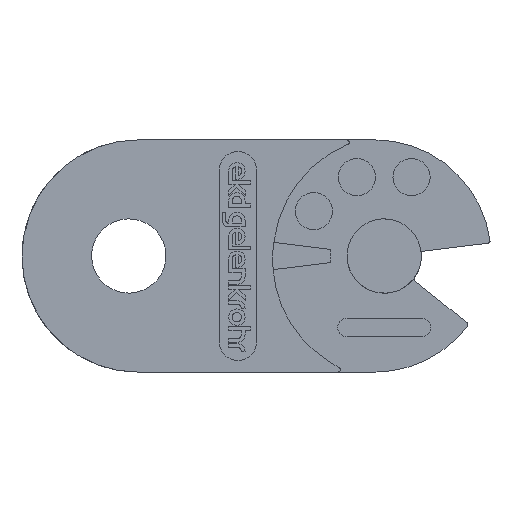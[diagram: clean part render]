
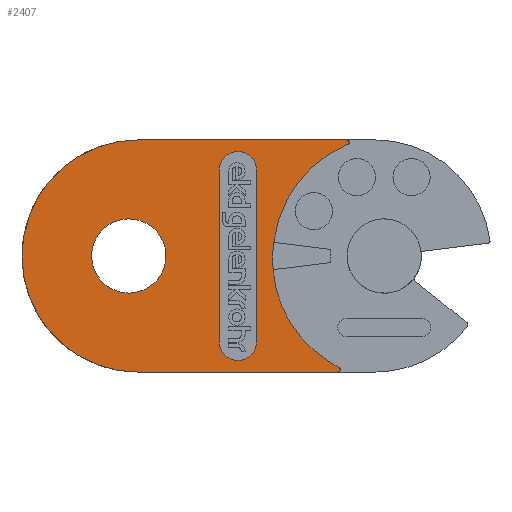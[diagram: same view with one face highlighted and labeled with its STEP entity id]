
A CAD part, left-side view. The second image highlights one B-rep face of the part: STEP entity #2407.
In plain terms, the highlighted planar face has unit normal (-1, 0, 0) as drawn and (0, 0, -1) by its records, which use the part's own axes.
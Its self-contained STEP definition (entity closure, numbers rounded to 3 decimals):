
#1499=CARTESIAN_POINT('',(186.111,170.46,-87.));
#1500=VERTEX_POINT('',#1499);
#1507=CARTESIAN_POINT('',(186.111,120.46,-87.));
#1508=VERTEX_POINT('',#1507);
#1509=CARTESIAN_POINT('',(186.111,145.46,-87.));
#1510=DIRECTION('',(0.0,0.0,-1.0));
#1511=DIRECTION('',(0.0,-1.0,0.0));
#1512=AXIS2_PLACEMENT_3D('',#1509,#1510,#1511);
#1513=CIRCLE('',#1512,25.0);
#1514=EDGE_CURVE('',#1508,#1500,#1513,.T.);
#2104=CARTESIAN_POINT('',(178.713,139.556,-87.));
#2105=VERTEX_POINT('',#2104);
#2112=CARTESIAN_POINT('',(189.508,151.365,-87.));
#2113=VERTEX_POINT('',#2112);
#2114=CARTESIAN_POINT('',(184.111,145.46,-87.));
#2115=DIRECTION('',(0.0,0.0,1.0));
#2116=DIRECTION('',(-1.0,0.0,0.0));
#2117=AXIS2_PLACEMENT_3D('',#2114,#2115,#2116);
#2118=CIRCLE('',#2117,8.0);
#2119=EDGE_CURVE('',#2113,#2105,#2118,.T.);
#2146=CARTESIAN_POINT('',(215.425,142.043,-87.));
#2147=VERTEX_POINT('',#2146);
#2154=CARTESIAN_POINT('',(215.226,148.883,-87.));
#2155=VERTEX_POINT('',#2154);
#2156=CARTESIAN_POINT('',(240.932,146.21,-87.));
#2157=DIRECTION('',(0.0,0.0,1.));
#2158=DIRECTION('',(-0.987,-0.161,0.0));
#2159=AXIS2_PLACEMENT_3D('',#2156,#2157,#2158);
#2160=CIRCLE('',#2159,25.845);
#2161=EDGE_CURVE('',#2155,#2147,#2160,.T.);
#2296=CARTESIAN_POINT('',(239.789,145.654,-87.));
#2297=DIRECTION('',(0.0,0.0,-1.0));
#2298=DIRECTION('',(-1.0,0.0,0.0));
#2299=AXIS2_PLACEMENT_3D('',#2296,#2297,#2298);
#2300=PLANE('',#2299);
#2301=ORIENTED_EDGE('',*,*,#2161,.T.);
#2302=CARTESIAN_POINT('',(231.291,121.423,-87.));
#2303=VERTEX_POINT('',#2302);
#2304=CARTESIAN_POINT('',(241.2,145.46,-87.));
#2305=DIRECTION('',(0.0,0.0,1.));
#2306=DIRECTION('',(-0.381,-0.925,0.0));
#2307=AXIS2_PLACEMENT_3D('',#2304,#2305,#2306);
#2308=CIRCLE('',#2307,26.);
#2309=EDGE_CURVE('',#2147,#2303,#2308,.T.);
#2310=ORIENTED_EDGE('',*,*,#2309,.T.);
#2311=CARTESIAN_POINT('',(231.1,120.46,-87.));
#2312=VERTEX_POINT('',#2311);
#2313=CARTESIAN_POINT('',(231.1,120.96,-87.));
#2314=DIRECTION('',(0.0,0.0,-1.));
#2315=DIRECTION('',(-0.381,-0.925,0.0));
#2316=AXIS2_PLACEMENT_3D('',#2313,#2314,#2315);
#2317=CIRCLE('',#2316,0.5);
#2318=EDGE_CURVE('',#2303,#2312,#2317,.T.);
#2319=ORIENTED_EDGE('',*,*,#2318,.T.);
#2320=CARTESIAN_POINT('',(231.1,120.46,-87.));
#2321=DIRECTION('',(-1.0,0.0,0.0));
#2322=VECTOR('',#2321,44.99);
#2323=LINE('',#2320,#2322);
#2324=EDGE_CURVE('',#2312,#1508,#2323,.T.);
#2325=ORIENTED_EDGE('',*,*,#2324,.T.);
#2326=ORIENTED_EDGE('',*,*,#1514,.T.);
#2327=CARTESIAN_POINT('',(229.165,170.46,-87.));
#2328=VERTEX_POINT('',#2327);
#2329=CARTESIAN_POINT('',(186.111,170.46,-87.));
#2330=DIRECTION('',(1.0,0.0,0.0));
#2331=VECTOR('',#2330,43.054);
#2332=LINE('',#2329,#2331);
#2333=EDGE_CURVE('',#1500,#2328,#2332,.T.);
#2334=ORIENTED_EDGE('',*,*,#2333,.T.);
#2335=CARTESIAN_POINT('',(229.429,169.536,-87.));
#2336=VERTEX_POINT('',#2335);
#2337=CARTESIAN_POINT('',(229.165,169.96,-87.));
#2338=DIRECTION('',(0.0,0.0,-1.0));
#2339=DIRECTION('',(0.0,-1.0,0.0));
#2340=AXIS2_PLACEMENT_3D('',#2337,#2338,#2339);
#2341=CIRCLE('',#2340,0.5);
#2342=EDGE_CURVE('',#2328,#2336,#2341,.T.);
#2343=ORIENTED_EDGE('',*,*,#2342,.T.);
#2344=CARTESIAN_POINT('',(226.871,167.942,-87.));
#2345=VERTEX_POINT('',#2344);
#2346=CARTESIAN_POINT('',(229.429,169.536,-87.));
#2347=DIRECTION('',(-0.849,-0.529,0.0));
#2348=VECTOR('',#2347,3.014);
#2349=LINE('',#2346,#2348);
#2350=EDGE_CURVE('',#2336,#2345,#2349,.T.);
#2351=ORIENTED_EDGE('',*,*,#2350,.T.);
#2352=CARTESIAN_POINT('',(240.611,146.46,-87.));
#2353=DIRECTION('',(0.0,0.0,1.));
#2354=DIRECTION('',(-0.995,0.095,0.0));
#2355=AXIS2_PLACEMENT_3D('',#2352,#2353,#2354);
#2356=CIRCLE('',#2355,25.5);
#2357=EDGE_CURVE('',#2345,#2155,#2356,.T.);
#2358=ORIENTED_EDGE('',*,*,#2357,.T.);
#2359=EDGE_LOOP('',(#2301,#2310,#2319,#2325,#2326,#2334,#2343,#2351,#2358));
#2360=FACE_OUTER_BOUND('',#2359,.T.);
#2361=CARTESIAN_POINT('',(211.611,163.96,-87.));
#2362=VERTEX_POINT('',#2361);
#2363=CARTESIAN_POINT('',(203.611,163.96,-87.));
#2364=VERTEX_POINT('',#2363);
#2365=CARTESIAN_POINT('',(207.611,163.96,-87.));
#2366=DIRECTION('',(0.0,0.0,1.0));
#2367=DIRECTION('',(1.0,0.0,0.0));
#2368=AXIS2_PLACEMENT_3D('',#2365,#2366,#2367);
#2369=CIRCLE('',#2368,4.);
#2370=EDGE_CURVE('',#2362,#2364,#2369,.T.);
#2371=ORIENTED_EDGE('',*,*,#2370,.T.);
#2372=CARTESIAN_POINT('',(203.611,126.96,-87.));
#2373=VERTEX_POINT('',#2372);
#2374=CARTESIAN_POINT('',(203.611,163.96,-87.));
#2375=DIRECTION('',(0.0,-1.0,0.0));
#2376=VECTOR('',#2375,37.);
#2377=LINE('',#2374,#2376);
#2378=EDGE_CURVE('',#2364,#2373,#2377,.T.);
#2379=ORIENTED_EDGE('',*,*,#2378,.T.);
#2380=CARTESIAN_POINT('',(211.611,126.96,-87.));
#2381=VERTEX_POINT('',#2380);
#2382=CARTESIAN_POINT('',(207.611,126.96,-87.));
#2383=DIRECTION('',(0.0,0.0,1.0));
#2384=DIRECTION('',(-1.0,0.0,0.0));
#2385=AXIS2_PLACEMENT_3D('',#2382,#2383,#2384);
#2386=CIRCLE('',#2385,4.);
#2387=EDGE_CURVE('',#2373,#2381,#2386,.T.);
#2388=ORIENTED_EDGE('',*,*,#2387,.T.);
#2389=CARTESIAN_POINT('',(211.611,126.96,-87.));
#2390=DIRECTION('',(0.0,1.0,0.0));
#2391=VECTOR('',#2390,37.);
#2392=LINE('',#2389,#2391);
#2393=EDGE_CURVE('',#2381,#2362,#2392,.T.);
#2394=ORIENTED_EDGE('',*,*,#2393,.T.);
#2395=EDGE_LOOP('',(#2371,#2379,#2388,#2394));
#2396=FACE_BOUND('',#2395,.T.);
#2397=CARTESIAN_POINT('',(184.111,145.46,-87.));
#2398=DIRECTION('',(0.0,0.0,1.0));
#2399=DIRECTION('',(-1.0,0.0,0.0));
#2400=AXIS2_PLACEMENT_3D('',#2397,#2398,#2399);
#2401=CIRCLE('',#2400,8.0);
#2402=EDGE_CURVE('',#2105,#2113,#2401,.T.);
#2403=ORIENTED_EDGE('',*,*,#2402,.T.);
#2404=ORIENTED_EDGE('',*,*,#2119,.T.);
#2405=EDGE_LOOP('',(#2403,#2404));
#2406=FACE_BOUND('',#2405,.T.);
#2407=ADVANCED_FACE('',(#2360,#2396,#2406),#2300,.T.);
